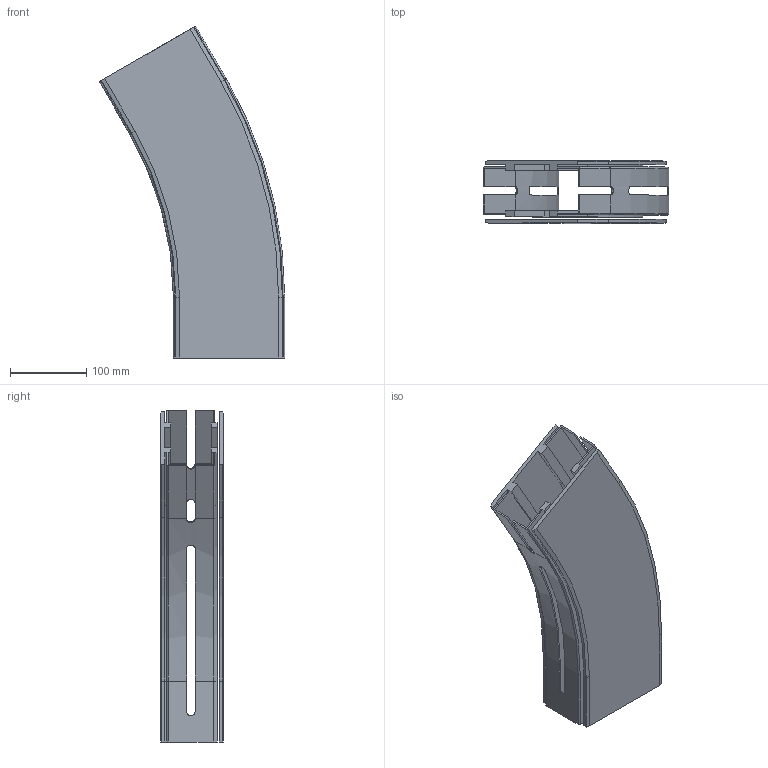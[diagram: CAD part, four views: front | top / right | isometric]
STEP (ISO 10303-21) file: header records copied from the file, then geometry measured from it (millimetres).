
FILE_DESCRIPTION((''),'2;1');
FILE_NAME('C:\Vault Klient\Projekt\Koncept konstruktion\Serie 540 Balk\540-5290.stp','2010-11-24T15:19:26',('Mathias'),(''),'Autodesk Inventor 2011','Autodesk Inventor 2011','');
FILE_SCHEMA(('AUTOMOTIVE_DESIGN { 1 0 10303 214 1 1 1 1 }'));
Length unit declared in the file: millimetre
Products named in the file (1): 540-5290
Bounding box: 243.21 x 82 x 435.78 mm (x, y, z)
Volume: 952592.2 mm3; surface area: 492905.4 mm2
Topology: 2 solids, 2 shells, 163 faces, 458 edges, 300 vertices
Faces by surface type: plane 107, cylinder 28, bspline 18, cone 6, torus 4
Entity records: 5598 total; most frequent: CARTESIAN_POINT 1344, ORIENTED_EDGE 916, DIRECTION 798, EDGE_CURVE 458, VECTOR 338, LINE 338, VERTEX_POINT 300, AXIS2_PLACEMENT_3D 230
